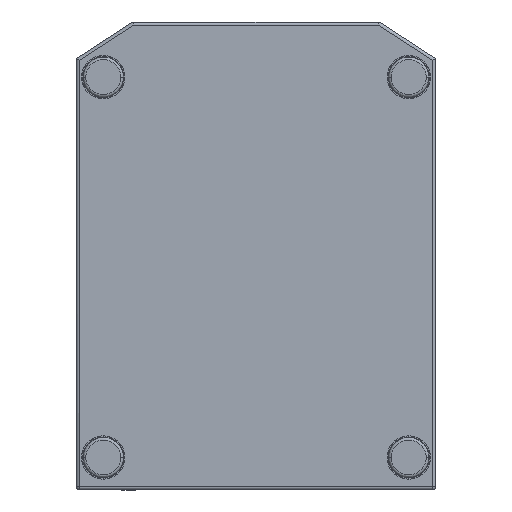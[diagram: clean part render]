
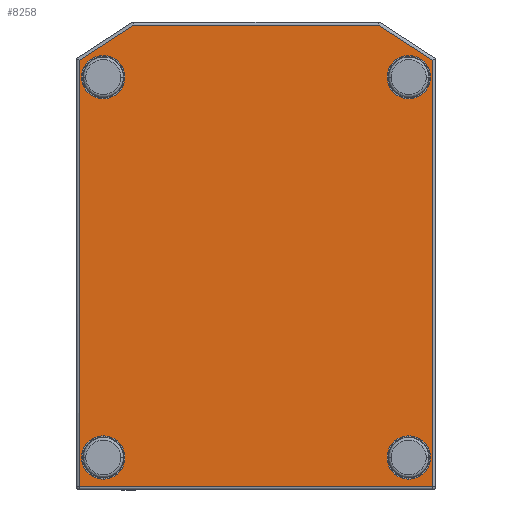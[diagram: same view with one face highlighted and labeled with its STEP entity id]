
A CAD part, front view. The second image highlights one B-rep face of the part: STEP entity #8258.
In plain terms, the highlighted planar face has unit normal (0, -1, 0) as drawn and (0, 0, -1) by its records, which use the part's own axes.
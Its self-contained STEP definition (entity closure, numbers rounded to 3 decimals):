
#688 = EDGE_CURVE ( 'NONE', #19134, #52185, #57588, .T. ) ;
#2156 = FACE_BOUND ( 'NONE', #4877, .T. ) ;
#3390 = FACE_BOUND ( 'NONE', #8246, .T. ) ;
#3901 = EDGE_CURVE ( 'NONE', #32939, #30501, #12087, .T. ) ;
#4459 = CARTESIAN_POINT ( 'NONE',  ( 113.111, -56.767, -2035. ) ) ;
#4877 = EDGE_LOOP ( 'NONE', ( #9264, #20715 ) ) ;
#5697 = ORIENTED_EDGE ( 'NONE', *, *, #45253, .F. ) ;
#6210 = CARTESIAN_POINT ( 'NONE',  ( 141., -8.846, -2035. ) ) ;
#6428 = VERTEX_POINT ( 'NONE', #74975 ) ;
#7162 = EDGE_CURVE ( 'NONE', #42094, #8428, #63493, .T. ) ;
#7172 = DIRECTION ( 'NONE',  ( 0., 1., 0. ) ) ;
#7730 = ORIENTED_EDGE ( 'NONE', *, *, #13008, .T. ) ;
#8058 = ORIENTED_EDGE ( 'NONE', *, *, #16780, .F. ) ;
#8167 = ORIENTED_EDGE ( 'NONE', *, *, #7162, .T. ) ;
#8246 = EDGE_LOOP ( 'NONE', ( #5697, #27939 ) ) ;
#8258 = ADVANCED_FACE ( 'NONE', ( #2156, #60510, #3390, #28791, #78060 ), #16307, .F. ) ;
#8428 = VERTEX_POINT ( 'NONE', #39143 ) ;
#9264 = ORIENTED_EDGE ( 'NONE', *, *, #38475, .F. ) ;
#9674 = CARTESIAN_POINT ( 'NONE',  ( -163., 369.233, -2035. ) ) ;
#10480 = CARTESIAN_POINT ( 'NONE',  ( -141., 11.154, -2035. ) ) ;
#11246 = CARTESIAN_POINT ( 'NONE',  ( -163., -24.369, -2035. ) ) ;
#11535 = CIRCLE ( 'NONE', #64786, 20. ) ;
#12087 = LINE ( 'NONE', #51209, #65030 ) ;
#13008 = EDGE_CURVE ( 'NONE', #8428, #52185, #47871, .T. ) ;
#13562 = EDGE_CURVE ( 'NONE', #78408, #24189, #38903, .T. ) ;
#14220 = VECTOR ( 'NONE', #43740, 1000. ) ;
#14473 = ORIENTED_EDGE ( 'NONE', *, *, #688, .F. ) ;
#15357 = VECTOR ( 'NONE', #38819, 1000. ) ;
#16307 = PLANE ( 'NONE',  #35366 ) ;
#16780 = EDGE_CURVE ( 'NONE', #67663, #25356, #65833, .T. ) ;
#16921 = CIRCLE ( 'NONE', #43528, 20. ) ;
#17307 = DIRECTION ( 'NONE',  ( 0., 0., -1. ) ) ;
#17882 = DIRECTION ( 'NONE',  ( 0., 0., -1. ) ) ;
#18736 = EDGE_CURVE ( 'NONE', #24932, #34871, #70670, .T. ) ;
#18760 = EDGE_CURVE ( 'NONE', #34871, #24932, #61464, .T. ) ;
#19134 = VERTEX_POINT ( 'NONE', #4459 ) ;
#19682 = CARTESIAN_POINT ( 'NONE',  ( 113.111, -56.767, -2035. ) ) ;
#20715 = ORIENTED_EDGE ( 'NONE', *, *, #13562, .F. ) ;
#21220 = DIRECTION ( 'NONE',  ( 0., 0., -1. ) ) ;
#23948 = CARTESIAN_POINT ( 'NONE',  ( -141., -8.846, -2035. ) ) ;
#24189 = VERTEX_POINT ( 'NONE', #61532 ) ;
#24427 = CARTESIAN_POINT ( 'NONE',  ( 141., 362.233, -2035. ) ) ;
#24932 = VERTEX_POINT ( 'NONE', #39969 ) ;
#24957 = LINE ( 'NONE', #11246, #14220 ) ;
#25356 = VERTEX_POINT ( 'NONE', #76210 ) ;
#25801 = CARTESIAN_POINT ( 'NONE',  ( 141., 342.233, -2035. ) ) ;
#25992 = EDGE_CURVE ( 'NONE', #30185, #6428, #16921, .T. ) ;
#26849 = DIRECTION ( 'NONE',  ( 0., 0., -1. ) ) ;
#26926 = EDGE_CURVE ( 'NONE', #19134, #30501, #70970, .T. ) ;
#27939 = ORIENTED_EDGE ( 'NONE', *, *, #25992, .F. ) ;
#28791 = FACE_BOUND ( 'NONE', #48577, .T. ) ;
#28990 = EDGE_LOOP ( 'NONE', ( #60459, #44203, #8167, #7730, #14473, #79307 ) ) ;
#30185 = VERTEX_POINT ( 'NONE', #24427 ) ;
#30501 = VERTEX_POINT ( 'NONE', #58062 ) ;
#32939 = VERTEX_POINT ( 'NONE', #67971 ) ;
#33714 = DIRECTION ( 'NONE',  ( 0., 1., 0. ) ) ;
#33941 = ORIENTED_EDGE ( 'NONE', *, *, #62397, .F. ) ;
#34711 = AXIS2_PLACEMENT_3D ( 'NONE', #49990, #37862, #44127 ) ;
#34871 = VERTEX_POINT ( 'NONE', #40771 ) ;
#35106 = ORIENTED_EDGE ( 'NONE', *, *, #18760, .F. ) ;
#35366 = AXIS2_PLACEMENT_3D ( 'NONE', #41721, #53017, #46759 ) ;
#35768 = DIRECTION ( 'NONE',  ( 0., -1., 0. ) ) ;
#36258 = VECTOR ( 'NONE', #35768, 1000. ) ;
#37492 = CIRCLE ( 'NONE', #55003, 20. ) ;
#37862 = DIRECTION ( 'NONE',  ( 0., 0., -1. ) ) ;
#38031 = CARTESIAN_POINT ( 'NONE',  ( -141., 342.233, -2035. ) ) ;
#38475 = EDGE_CURVE ( 'NONE', #24189, #78408, #37492, .T. ) ;
#38819 = DIRECTION ( 'NONE',  ( 1., 0., 0. ) ) ;
#38903 = CIRCLE ( 'NONE', #78950, 20. ) ;
#39143 = CARTESIAN_POINT ( 'NONE',  ( 163., 369.233, -2035. ) ) ;
#39360 = DIRECTION ( 'NONE',  ( 0., 1., 0. ) ) ;
#39685 = DIRECTION ( 'NONE',  ( -1., 0., 0. ) ) ;
#39969 = CARTESIAN_POINT ( 'NONE',  ( 141., 11.154, -2035. ) ) ;
#40771 = CARTESIAN_POINT ( 'NONE',  ( 141., -28.846, -2035. ) ) ;
#41478 = CARTESIAN_POINT ( 'NONE',  ( 141., 342.233, -2035. ) ) ;
#41721 = CARTESIAN_POINT ( 'NONE',  ( 0., 0., -2035. ) ) ;
#42094 = VERTEX_POINT ( 'NONE', #9674 ) ;
#42499 = EDGE_CURVE ( 'NONE', #32939, #42094, #24957, .T. ) ;
#43528 = AXIS2_PLACEMENT_3D ( 'NONE', #25801, #21220, #33714 ) ;
#43740 = DIRECTION ( 'NONE',  ( 0., 1., 0. ) ) ;
#44127 = DIRECTION ( 'NONE',  ( 0., 1., 0. ) ) ;
#44203 = ORIENTED_EDGE ( 'NONE', *, *, #42499, .T. ) ;
#45191 = DIRECTION ( 'NONE',  ( 0., 0., -1. ) ) ;
#45253 = EDGE_CURVE ( 'NONE', #6428, #30185, #11535, .T. ) ;
#46759 = DIRECTION ( 'NONE',  ( 1., 0., 0. ) ) ;
#47871 = LINE ( 'NONE', #73337, #36258 ) ;
#48577 = EDGE_LOOP ( 'NONE', ( #35106, #70513 ) ) ;
#48984 = DIRECTION ( 'NONE',  ( 0., -1., 0. ) ) ;
#49990 = CARTESIAN_POINT ( 'NONE',  ( 141., -8.846, -2035. ) ) ;
#50263 = VECTOR ( 'NONE', #39685, 1000. ) ;
#51209 = CARTESIAN_POINT ( 'NONE',  ( -163., -24.369, -2035. ) ) ;
#52185 = VERTEX_POINT ( 'NONE', #72616 ) ;
#52934 = VECTOR ( 'NONE', #58000, 1000. ) ;
#53017 = DIRECTION ( 'NONE',  ( 0., 0., 1. ) ) ;
#53132 = CARTESIAN_POINT ( 'NONE',  ( -141., -8.846, -2035. ) ) ;
#55003 = AXIS2_PLACEMENT_3D ( 'NONE', #38031, #64318, #7172 ) ;
#56906 = CARTESIAN_POINT ( 'NONE',  ( -141., 342.233, -2035. ) ) ;
#57588 = LINE ( 'NONE', #77207, #52934 ) ;
#58000 = DIRECTION ( 'NONE',  ( 0.839, 0.545, 0. ) ) ;
#58062 = CARTESIAN_POINT ( 'NONE',  ( -113.111, -56.767, -2035. ) ) ;
#60459 = ORIENTED_EDGE ( 'NONE', *, *, #3901, .F. ) ;
#60510 = FACE_BOUND ( 'NONE', #82006, .T. ) ;
#61464 = CIRCLE ( 'NONE', #62792, 20. ) ;
#61532 = CARTESIAN_POINT ( 'NONE',  ( -141., 362.233, -2035. ) ) ;
#62397 = EDGE_CURVE ( 'NONE', #25356, #67663, #80924, .T. ) ;
#62758 = DIRECTION ( 'NONE',  ( 0., -1., 0. ) ) ;
#62792 = AXIS2_PLACEMENT_3D ( 'NONE', #6210, #17882, #68360 ) ;
#62961 = DIRECTION ( 'NONE',  ( 0.839, -0.545, 0. ) ) ;
#63493 = LINE ( 'NONE', #82272, #15357 ) ;
#64318 = DIRECTION ( 'NONE',  ( 0., 0., -1. ) ) ;
#64786 = AXIS2_PLACEMENT_3D ( 'NONE', #41478, #17307, #48984 ) ;
#65030 = VECTOR ( 'NONE', #62961, 1000. ) ;
#65833 = CIRCLE ( 'NONE', #72491, 20. ) ;
#67663 = VERTEX_POINT ( 'NONE', #10480 ) ;
#67971 = CARTESIAN_POINT ( 'NONE',  ( -163., -24.369, -2035. ) ) ;
#68360 = DIRECTION ( 'NONE',  ( 0., -1., 0. ) ) ;
#70513 = ORIENTED_EDGE ( 'NONE', *, *, #18736, .F. ) ;
#70670 = CIRCLE ( 'NONE', #34711, 20. ) ;
#70970 = LINE ( 'NONE', #19682, #50263 ) ;
#72491 = AXIS2_PLACEMENT_3D ( 'NONE', #53132, #26849, #39360 ) ;
#72616 = CARTESIAN_POINT ( 'NONE',  ( 163., -24.369, -2035. ) ) ;
#73337 = CARTESIAN_POINT ( 'NONE',  ( 163., 369.233, -2035. ) ) ;
#74025 = DIRECTION ( 'NONE',  ( 0., 0., -1. ) ) ;
#74975 = CARTESIAN_POINT ( 'NONE',  ( 141., 322.233, -2035. ) ) ;
#76210 = CARTESIAN_POINT ( 'NONE',  ( -141., -28.846, -2035. ) ) ;
#76906 = DIRECTION ( 'NONE',  ( 0., -1., 0. ) ) ;
#76912 = AXIS2_PLACEMENT_3D ( 'NONE', #23948, #74025, #62758 ) ;
#77207 = CARTESIAN_POINT ( 'NONE',  ( 113.111, -56.767, -2035. ) ) ;
#78060 = FACE_OUTER_BOUND ( 'NONE', #28990, .T. ) ;
#78408 = VERTEX_POINT ( 'NONE', #78701 ) ;
#78701 = CARTESIAN_POINT ( 'NONE',  ( -141., 322.233, -2035. ) ) ;
#78950 = AXIS2_PLACEMENT_3D ( 'NONE', #56906, #45191, #76906 ) ;
#79307 = ORIENTED_EDGE ( 'NONE', *, *, #26926, .T. ) ;
#80924 = CIRCLE ( 'NONE', #76912, 20. ) ;
#82006 = EDGE_LOOP ( 'NONE', ( #8058, #33941 ) ) ;
#82272 = CARTESIAN_POINT ( 'NONE',  ( -163., 369.233, -2035. ) ) ;
